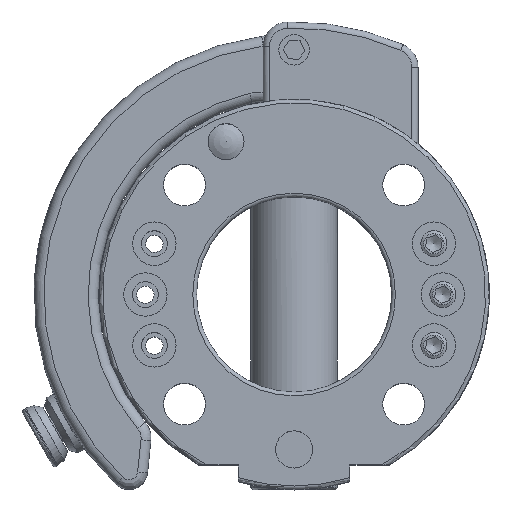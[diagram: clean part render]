
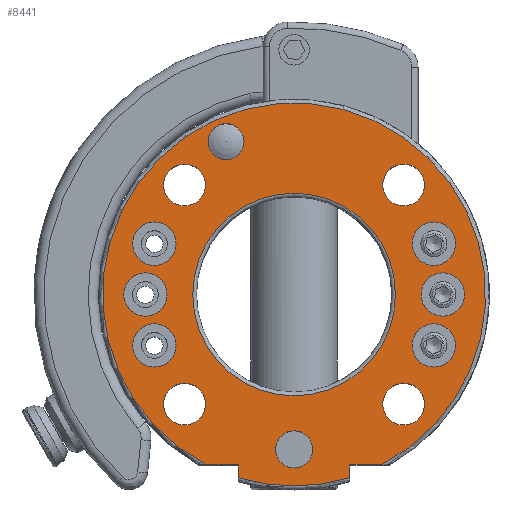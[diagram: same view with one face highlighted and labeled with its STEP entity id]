
A CAD part, top view. The second image highlights one B-rep face of the part: STEP entity #8441.
In plain terms, the highlighted planar face has unit normal (0, 0, 1).
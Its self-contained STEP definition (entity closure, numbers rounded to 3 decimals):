
#437=FACE_BOUND('',#1508,.T.);
#438=FACE_BOUND('',#1509,.T.);
#439=FACE_BOUND('',#1510,.T.);
#440=FACE_BOUND('',#1511,.T.);
#441=FACE_BOUND('',#1512,.T.);
#442=FACE_BOUND('',#1513,.T.);
#443=FACE_BOUND('',#1514,.T.);
#444=FACE_BOUND('',#1515,.T.);
#445=FACE_BOUND('',#1516,.T.);
#446=FACE_BOUND('',#1517,.T.);
#447=FACE_BOUND('',#1518,.T.);
#448=FACE_BOUND('',#1519,.T.);
#449=FACE_BOUND('',#1520,.T.);
#573=PLANE('',#9182);
#971=FACE_OUTER_BOUND('',#1507,.T.);
#1507=EDGE_LOOP('',(#6164,#6165,#6166,#6167,#6168,#6169));
#1508=EDGE_LOOP('',(#6170));
#1509=EDGE_LOOP('',(#6171));
#1510=EDGE_LOOP('',(#6172));
#1511=EDGE_LOOP('',(#6173));
#1512=EDGE_LOOP('',(#6174));
#1513=EDGE_LOOP('',(#6175));
#1514=EDGE_LOOP('',(#6176));
#1515=EDGE_LOOP('',(#6177));
#1516=EDGE_LOOP('',(#6178));
#1517=EDGE_LOOP('',(#6179));
#1518=EDGE_LOOP('',(#6180));
#1519=EDGE_LOOP('',(#6181));
#1520=EDGE_LOOP('',(#6182));
#2032=LINE('',#13872,#2515);
#2053=LINE('',#14111,#2536);
#2054=LINE('',#14149,#2537);
#2058=LINE('',#14167,#2541);
#2515=VECTOR('',#10504,10.);
#2536=VECTOR('',#10639,10.);
#2537=VECTOR('',#10652,10.);
#2541=VECTOR('',#10674,10.);
#2987=CIRCLE('',#9108,16.35);
#2996=CIRCLE('',#9124,3.375);
#3000=CIRCLE('',#9131,3.375);
#3004=CIRCLE('',#9137,3.375);
#3008=CIRCLE('',#9144,3.375);
#3031=CIRCLE('',#9180,30.9);
#3033=CIRCLE('',#9183,30.9);
#3034=CIRCLE('',#9184,3.5);
#3035=CIRCLE('',#9185,3.5);
#3036=CIRCLE('',#9186,3.5);
#3037=CIRCLE('',#9187,3.5);
#3038=CIRCLE('',#9188,3.5);
#3039=CIRCLE('',#9189,3.5);
#3040=CIRCLE('',#9190,3.);
#3041=CIRCLE('',#9191,2.9);
#3522=VERTEX_POINT('',#13840);
#3527=VERTEX_POINT('',#13860);
#3528=VERTEX_POINT('',#13871);
#3539=VERTEX_POINT('',#13911);
#3543=VERTEX_POINT('',#13924);
#3549=VERTEX_POINT('',#13941);
#3553=VERTEX_POINT('',#13954);
#3575=VERTEX_POINT('',#14084);
#3581=VERTEX_POINT('',#14134);
#3583=VERTEX_POINT('',#14148);
#3588=VERTEX_POINT('',#14165);
#3589=VERTEX_POINT('',#14168);
#3590=VERTEX_POINT('',#14170);
#3591=VERTEX_POINT('',#14172);
#3592=VERTEX_POINT('',#14174);
#3593=VERTEX_POINT('',#14176);
#3594=VERTEX_POINT('',#14178);
#3595=VERTEX_POINT('',#14180);
#3596=VERTEX_POINT('',#14182);
#4449=EDGE_CURVE('',#3522,#3522,#2987,.T.);
#4455=EDGE_CURVE('',#3528,#3527,#2032,.T.);
#4470=EDGE_CURVE('',#3539,#3539,#2996,.T.);
#4476=EDGE_CURVE('',#3543,#3543,#3000,.T.);
#4483=EDGE_CURVE('',#3549,#3549,#3004,.T.);
#4489=EDGE_CURVE('',#3553,#3553,#3008,.T.);
#4519=EDGE_CURVE('',#3575,#3528,#2053,.T.);
#4526=EDGE_CURVE('',#3583,#3581,#2054,.T.);
#4533=EDGE_CURVE('',#3575,#3581,#3031,.T.);
#4535=EDGE_CURVE('',#3588,#3527,#3033,.T.);
#4536=EDGE_CURVE('',#3588,#3583,#2058,.T.);
#4537=EDGE_CURVE('',#3589,#3589,#3034,.T.);
#4538=EDGE_CURVE('',#3590,#3590,#3035,.T.);
#4539=EDGE_CURVE('',#3591,#3591,#3036,.T.);
#4540=EDGE_CURVE('',#3592,#3592,#3037,.T.);
#4541=EDGE_CURVE('',#3593,#3593,#3038,.T.);
#4542=EDGE_CURVE('',#3594,#3594,#3039,.T.);
#4543=EDGE_CURVE('',#3595,#3595,#3040,.T.);
#4544=EDGE_CURVE('',#3596,#3596,#3041,.T.);
#6164=ORIENTED_EDGE('',*,*,#4535,.F.);
#6165=ORIENTED_EDGE('',*,*,#4536,.T.);
#6166=ORIENTED_EDGE('',*,*,#4526,.T.);
#6167=ORIENTED_EDGE('',*,*,#4533,.F.);
#6168=ORIENTED_EDGE('',*,*,#4519,.T.);
#6169=ORIENTED_EDGE('',*,*,#4455,.T.);
#6170=ORIENTED_EDGE('',*,*,#4537,.T.);
#6171=ORIENTED_EDGE('',*,*,#4538,.T.);
#6172=ORIENTED_EDGE('',*,*,#4539,.T.);
#6173=ORIENTED_EDGE('',*,*,#4540,.T.);
#6174=ORIENTED_EDGE('',*,*,#4541,.T.);
#6175=ORIENTED_EDGE('',*,*,#4542,.T.);
#6176=ORIENTED_EDGE('',*,*,#4543,.T.);
#6177=ORIENTED_EDGE('',*,*,#4544,.T.);
#6178=ORIENTED_EDGE('',*,*,#4449,.F.);
#6179=ORIENTED_EDGE('',*,*,#4470,.T.);
#6180=ORIENTED_EDGE('',*,*,#4476,.T.);
#6181=ORIENTED_EDGE('',*,*,#4483,.T.);
#6182=ORIENTED_EDGE('',*,*,#4489,.T.);
#8441=ADVANCED_FACE('',(#971,#437,#438,#439,#440,#441,#442,#443,#444,#445,
#446,#447,#448,#449),#573,.T.);
#9108=AXIS2_PLACEMENT_3D('',#13841,#10495,#10496);
#9124=AXIS2_PLACEMENT_3D('',#13913,#10536,#10537);
#9131=AXIS2_PLACEMENT_3D('',#13926,#10552,#10553);
#9137=AXIS2_PLACEMENT_3D('',#13943,#10566,#10567);
#9144=AXIS2_PLACEMENT_3D('',#13956,#10582,#10583);
#9180=AXIS2_PLACEMENT_3D('',#14162,#10666,#10667);
#9182=AXIS2_PLACEMENT_3D('',#14164,#10670,#10671);
#9183=AXIS2_PLACEMENT_3D('',#14166,#10672,#10673);
#9184=AXIS2_PLACEMENT_3D('',#14169,#10675,#10676);
#9185=AXIS2_PLACEMENT_3D('',#14171,#10677,#10678);
#9186=AXIS2_PLACEMENT_3D('',#14173,#10679,#10680);
#9187=AXIS2_PLACEMENT_3D('',#14175,#10681,#10682);
#9188=AXIS2_PLACEMENT_3D('',#14177,#10683,#10684);
#9189=AXIS2_PLACEMENT_3D('',#14179,#10685,#10686);
#9190=AXIS2_PLACEMENT_3D('',#14181,#10687,#10688);
#9191=AXIS2_PLACEMENT_3D('',#14183,#10689,#10690);
#10495=DIRECTION('center_axis',(0.,0.,
1.));
#10496=DIRECTION('ref_axis',(-1.,0.,0.));
#10504=DIRECTION('',(0.,-1.,0.));
#10536=DIRECTION('center_axis',(0.,0.,
-1.));
#10537=DIRECTION('ref_axis',(-1.,0.,0.));
#10552=DIRECTION('center_axis',(0.,0.,
-1.));
#10553=DIRECTION('ref_axis',(-1.,0.,0.));
#10566=DIRECTION('center_axis',(0.,0.,
-1.));
#10567=DIRECTION('ref_axis',(-1.,0.,0.));
#10582=DIRECTION('center_axis',(0.,0.,
-1.));
#10583=DIRECTION('ref_axis',(-1.,0.,0.));
#10639=DIRECTION('',(1.,0.,0.));
#10652=DIRECTION('',(1.,0.,0.));
#10666=DIRECTION('center_axis',(0.,0.,
-1.));
#10667=DIRECTION('ref_axis',(0.,1.,0.));
#10670=DIRECTION('center_axis',(0.,0.,
1.));
#10671=DIRECTION('ref_axis',(1.,0.,0.));
#10672=DIRECTION('center_axis',(0.,0.,
-1.));
#10673=DIRECTION('ref_axis',(0.,-1.,0.));
#10674=DIRECTION('',(0.,1.,0.));
#10675=DIRECTION('center_axis',(0.,0.,
-1.));
#10676=DIRECTION('ref_axis',(1.,0.,0.));
#10677=DIRECTION('center_axis',(0.,0.,
-1.));
#10678=DIRECTION('ref_axis',(1.,0.,0.));
#10679=DIRECTION('center_axis',(0.,0.,
-1.));
#10680=DIRECTION('ref_axis',(1.,0.,0.));
#10681=DIRECTION('center_axis',(0.,0.,
-1.));
#10682=DIRECTION('ref_axis',(1.,0.,0.));
#10683=DIRECTION('center_axis',(0.,0.,
-1.));
#10684=DIRECTION('ref_axis',(1.,0.,0.));
#10685=DIRECTION('center_axis',(0.,0.,
-1.));
#10686=DIRECTION('ref_axis',(1.,0.,0.));
#10687=DIRECTION('center_axis',(0.,0.,
-1.));
#10688=DIRECTION('ref_axis',(1.,0.,0.));
#10689=DIRECTION('center_axis',(0.,0.,
-1.));
#10690=DIRECTION('ref_axis',(1.,0.,0.));
#13840=CARTESIAN_POINT('',(22.012,0.439,13.25));
#13841=CARTESIAN_POINT('Origin',(5.662,0.439,13.25));
#13860=CARTESIAN_POINT('',(-3.338,-29.121,13.25));
#13871=CARTESIAN_POINT('',(-3.338,-27.061,13.25));
#13872=CARTESIAN_POINT('',(-3.338,-13.311,13.25));
#13911=CARTESIAN_POINT('',(-8.641,-17.239,13.25));
#13913=CARTESIAN_POINT('Origin',(-12.016,-17.239,13.25));
#13924=CARTESIAN_POINT('',(26.715,18.117,13.25));
#13926=CARTESIAN_POINT('Origin',(23.34,18.117,13.25));
#13941=CARTESIAN_POINT('',(-8.641,18.117,13.25));
#13943=CARTESIAN_POINT('Origin',(-12.016,18.117,13.25));
#13954=CARTESIAN_POINT('',(26.715,-17.239,13.25));
#13956=CARTESIAN_POINT('Origin',(23.34,-17.239,13.25));
#14084=CARTESIAN_POINT('',(-8.429,-27.061,13.25));
#14111=CARTESIAN_POINT('',(-2.019,-27.061,13.25));
#14134=CARTESIAN_POINT('',(19.753,-27.061,13.25));
#14148=CARTESIAN_POINT('',(14.662,-27.061,13.25));
#14149=CARTESIAN_POINT('',(10.162,-27.061,13.25));
#14162=CARTESIAN_POINT('Origin',(5.662,0.439,13.25));
#14164=CARTESIAN_POINT('Origin',(5.662,0.439,13.25));
#14165=CARTESIAN_POINT('',(14.662,-29.121,13.25));
#14166=CARTESIAN_POINT('Origin',(5.662,0.439,13.25));
#14167=CARTESIAN_POINT('',(14.662,-15.311,13.25));
#14168=CARTESIAN_POINT('',(-21.838,0.439,13.25));
#14169=CARTESIAN_POINT('Origin',(-18.338,0.439,13.25));
#14170=CARTESIAN_POINT('',(24.715,-7.769,13.25));
#14171=CARTESIAN_POINT('Origin',(28.215,-7.769,13.25));
#14172=CARTESIAN_POINT('',(24.715,8.648,13.25));
#14173=CARTESIAN_POINT('Origin',(28.215,8.648,13.25));
#14174=CARTESIAN_POINT('',(26.162,0.439,13.25));
#14175=CARTESIAN_POINT('Origin',(29.662,0.439,13.25));
#14176=CARTESIAN_POINT('',(-20.391,-7.769,13.25));
#14177=CARTESIAN_POINT('Origin',(-16.891,-7.769,13.25));
#14178=CARTESIAN_POINT('',(-20.391,8.648,13.25));
#14179=CARTESIAN_POINT('Origin',(-16.891,8.648,13.25));
#14180=CARTESIAN_POINT('',(2.662,-24.561,13.25));
#14181=CARTESIAN_POINT('Origin',(5.662,-24.561,13.25));
#14182=CARTESIAN_POINT('',(-8.22,25.105,13.25));
#14183=CARTESIAN_POINT('Origin',(-5.32,25.105,13.25));
